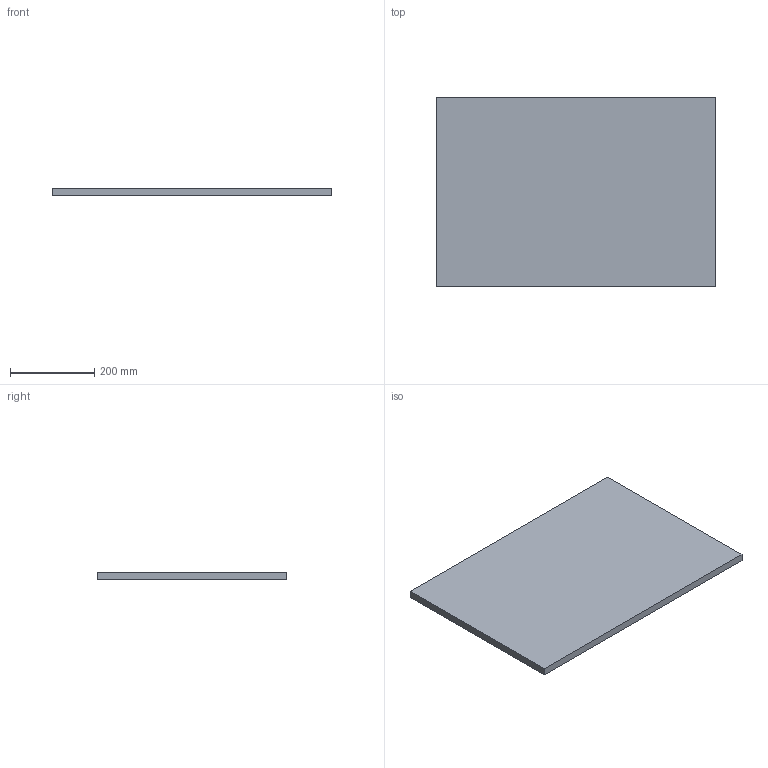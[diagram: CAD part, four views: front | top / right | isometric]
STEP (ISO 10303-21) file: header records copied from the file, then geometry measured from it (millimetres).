
FILE_DESCRIPTION(('Open CASCADE Model'),'2;1');
FILE_NAME('Open CASCADE Shape Model','2026-10-28T20:18:39',('Author'),( 'Open CASCADE'),'Open CASCADE STEP processor 7.8','Open CASCADE 7.8' ,'Unknown');
FILE_SCHEMA(('AUTOMOTIVE_DESIGN { 1 0 10303 214 1 1 1 1 }'));
Length unit declared in the file: millimetre
Products named in the file (1): Open CASCADE STEP translator 7.8 18
Bounding box: 664 x 450 x 18 mm (x, y, z)
Volume: 5378400 mm3; surface area: 637704 mm2
Topology: 1 solids, 1 shells, 6 faces, 12 edges, 8 vertices
Faces by surface type: plane 6
Entity records: 322 total; most frequent: CARTESIAN_POINT 51, DIRECTION 50, LINE 36, VECTOR 36, ORIENTED_EDGE 24, PCURVE 24, DEFINITIONAL_REPRESENTATION 24, EDGE_CURVE 12
